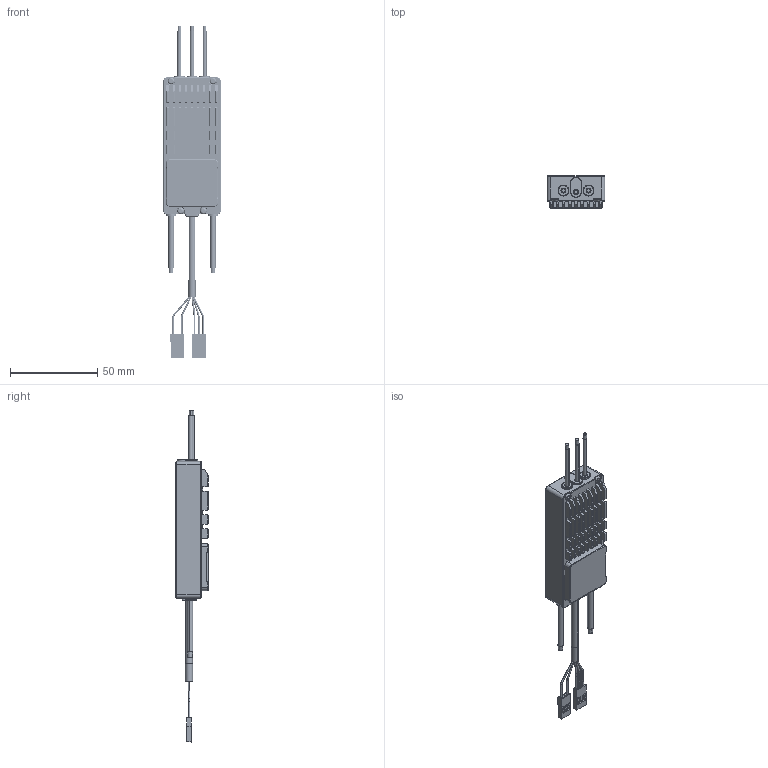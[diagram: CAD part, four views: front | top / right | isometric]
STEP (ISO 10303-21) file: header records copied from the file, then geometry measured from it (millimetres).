
FILE_DESCRIPTION((''),'2;1');
FILE_NAME('HW5146-BLDC-DAIKE-260618','2026-06-18T11:06:43',('Lenovo'),(''),'CREO PARAMETRIC BY PTC INC, 2021284','CREO PARAMETRIC BY PTC INC, 2021284','');
FILE_SCHEMA(('CONFIG_CONTROL_DESIGN','SHAPE_APPEARANCE_LAYERS_GROUPS'));
Products named in the file (1): HW5146-BLDC-DAIKE-260618
Bounding box: 33 x 18.4 x 190.24 mm (x, y, z)
Volume: 29643.4 mm3; surface area: 37293.1 mm2
Topology: 41 solids, 191 shells, 13497 faces, 35566 edges, 22824 vertices
Faces by surface type: plane 6551, extrusion 4495, cylinder 1834, sphere 485, cone 68, torus 46, bspline 18
Entity records: 645041 total; most frequent: CARTESIAN_POINT 286505, ORIENTED_EDGE 70150, DIRECTION 51614, EDGE_CURVE 35075, VECTOR 26380, VERTEX_POINT 22819, LINE 21885, EDGE_LOOP 14442
